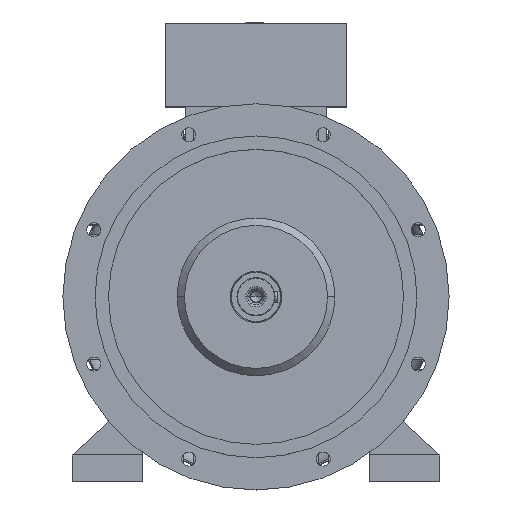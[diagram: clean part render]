
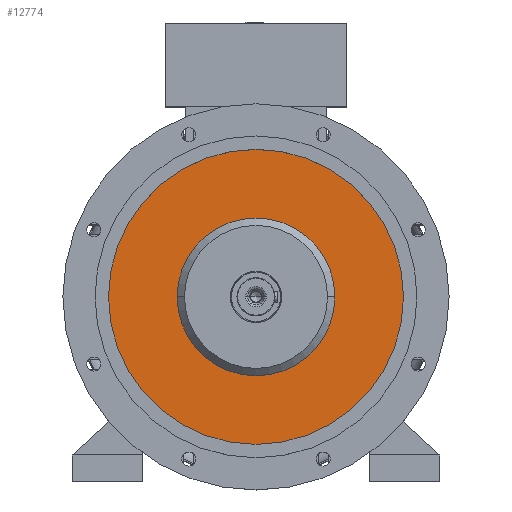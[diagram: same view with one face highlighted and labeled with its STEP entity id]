
A CAD part, top view. The second image highlights one B-rep face of the part: STEP entity #12774.
In plain terms, the highlighted planar face has unit normal (0, 0, 1).
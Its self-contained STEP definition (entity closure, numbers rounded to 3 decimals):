
#184 = ORIENTED_EDGE ( 'NONE', *, *, #14844, .T. ) ;
#358 = DIRECTION ( 'NONE',  ( -1., 0., 0. ) ) ;
#654 = FACE_OUTER_BOUND ( 'NONE', #5424, .T. ) ;
#1232 = CARTESIAN_POINT ( 'NONE',  ( 0., 252.083, 455.4 ) ) ;
#1249 = CARTESIAN_POINT ( 'NONE',  ( -134.8, 0., 455.4 ) ) ;
#1535 = DIRECTION ( 'NONE',  ( 0., 0., -1. ) ) ;
#1756 = AXIS2_PLACEMENT_3D ( 'NONE', #10974, #11141, #4784 ) ;
#3309 = PLANE ( 'NONE',  #4089 ) ;
#3534 = VERTEX_POINT ( 'NONE', #13521 ) ;
#4089 = AXIS2_PLACEMENT_3D ( 'NONE', #1232, #17885, #5618 ) ;
#4784 = DIRECTION ( 'NONE',  ( -1., 0., 0. ) ) ;
#5064 = EDGE_CURVE ( 'NONE', #5412, #3534, #10428, .T. ) ;
#5412 = VERTEX_POINT ( 'NONE', #1249 ) ;
#5424 = EDGE_LOOP ( 'NONE', ( #13456, #20932 ) ) ;
#5618 = DIRECTION ( 'NONE',  ( 1., 0., 0. ) ) ;
#7122 = CIRCLE ( 'NONE', #23652, 134.8 ) ;
#10428 = CIRCLE ( 'NONE', #21659, 134.8 ) ;
#10744 = DIRECTION ( 'NONE',  ( 0., 0., -1. ) ) ;
#10770 = FACE_BOUND ( 'NONE', #15613, .T. ) ;
#10974 = CARTESIAN_POINT ( 'NONE',  ( 0., 0., 455.4 ) ) ;
#11141 = DIRECTION ( 'NONE',  ( 0., 0., 1. ) ) ;
#12021 = DIRECTION ( 'NONE',  ( 0., 0., 1. ) ) ;
#12774 = ADVANCED_FACE ( 'NONE', ( #654, #10770 ), #3309, .T. ) ;
#13456 = ORIENTED_EDGE ( 'NONE', *, *, #20182, .T. ) ;
#13521 = CARTESIAN_POINT ( 'NONE',  ( 134.8, 0., 455.4 ) ) ;
#13972 = CIRCLE ( 'NONE', #14154, 252.083 ) ;
#14154 = AXIS2_PLACEMENT_3D ( 'NONE', #14164, #12021, #22184 ) ;
#14164 = CARTESIAN_POINT ( 'NONE',  ( 0., 0., 455.4 ) ) ;
#14844 = EDGE_CURVE ( 'NONE', #3534, #5412, #7122, .T. ) ;
#15613 = EDGE_LOOP ( 'NONE', ( #20409, #184 ) ) ;
#15919 = VERTEX_POINT ( 'NONE', #24115 ) ;
#17885 = DIRECTION ( 'NONE',  ( 0., 0., 1. ) ) ;
#18198 = DIRECTION ( 'NONE',  ( -1., 0., 0. ) ) ;
#19536 = VERTEX_POINT ( 'NONE', #23077 ) ;
#19621 = EDGE_CURVE ( 'NONE', #15919, #19536, #24452, .T. ) ;
#20182 = EDGE_CURVE ( 'NONE', #19536, #15919, #13972, .T. ) ;
#20409 = ORIENTED_EDGE ( 'NONE', *, *, #5064, .T. ) ;
#20932 = ORIENTED_EDGE ( 'NONE', *, *, #19621, .T. ) ;
#21371 = CARTESIAN_POINT ( 'NONE',  ( 0., 0., 455.4 ) ) ;
#21659 = AXIS2_PLACEMENT_3D ( 'NONE', #21371, #10744, #358 ) ;
#22184 = DIRECTION ( 'NONE',  ( -1., 0., 0. ) ) ;
#22560 = CARTESIAN_POINT ( 'NONE',  ( 0., 0., 455.4 ) ) ;
#23077 = CARTESIAN_POINT ( 'NONE',  ( -252.083, 0., 455.4 ) ) ;
#23652 = AXIS2_PLACEMENT_3D ( 'NONE', #22560, #1535, #18198 ) ;
#24115 = CARTESIAN_POINT ( 'NONE',  ( 252.083, 0., 455.4 ) ) ;
#24452 = CIRCLE ( 'NONE', #1756, 252.083 ) ;
